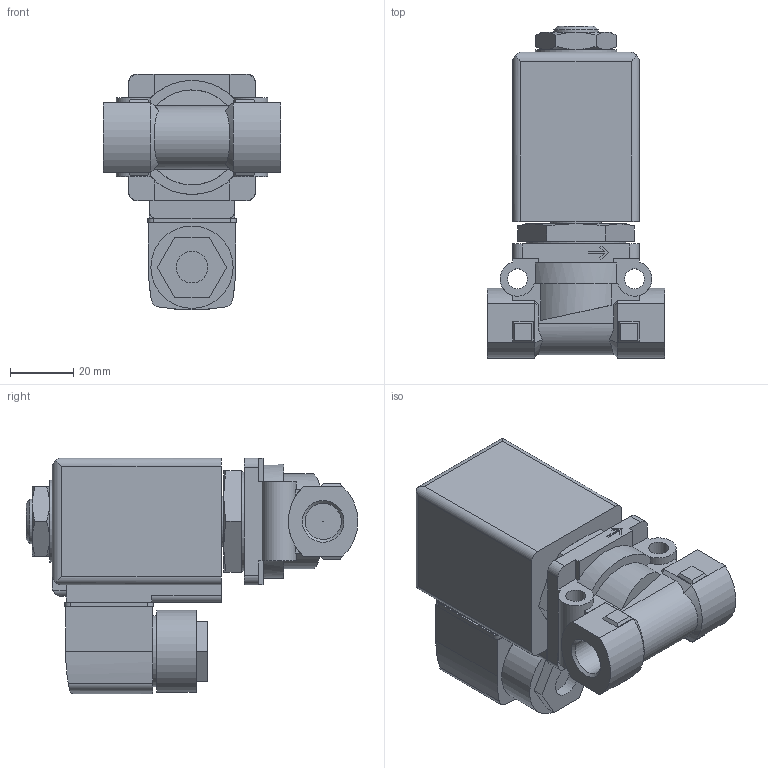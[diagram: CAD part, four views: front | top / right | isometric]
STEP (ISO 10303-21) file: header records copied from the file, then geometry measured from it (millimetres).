
FILE_DESCRIPTION(/* description */ ('STEP AP203'),/* implementation_level */ '2;1');
FILE_NAME(/* name */ '0255-064119-2-2-way_Solenoid_Valve',/* time_stamp */ '2024-01-02T16:19:16+01:00',/* author */ ('License CC BY-ND 4.0'),/* organization */ ('CADENAS'),/* preprocessor_version */ 'ST-DEVELOPER v19.3',/* originating_system */ 'PARTsolutions',/* authorisation */ ' ');
FILE_SCHEMA (('CONFIG_CONTROL_DESIGN'));
Length unit declared in the file: millimetre
Products named in the file (1): 0255-064119-2-2-way Solenoid Valve
Bounding box: 56 x 104.9 x 74.5 mm (x, y, z)
Volume: 169782.2 mm3; surface area: 29038.4 mm2
Topology: 1 solids, 1 shells, 232 faces, 582 edges, 371 vertices
Faces by surface type: plane 153, cylinder 52, cone 27
Full cylindrical faces by diameter (mm): 0.2 x1, 6.3 x2, 10 x1, 11.445 x2, 14 x1, 15.8 x1, 22.5 x1, 25.9 x1, 26 x1, 31.5 x1
Entity records: 8526 total; most frequent: CARTESIAN_POINT 1395, ORIENTED_EDGE 1132, DIRECTION 1104, EDGE_CURVE 566, AXIS2_PLACEMENT_3D 373, VERTEX_POINT 370, LINE 358, VECTOR 358
